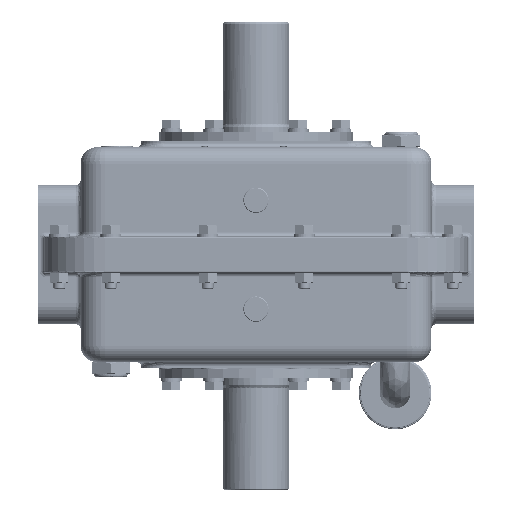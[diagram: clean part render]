
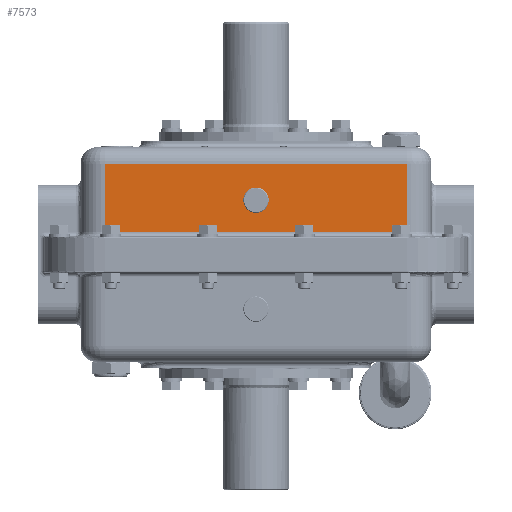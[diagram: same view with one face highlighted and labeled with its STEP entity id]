
A CAD part, front view. The second image highlights one B-rep face of the part: STEP entity #7573.
In plain terms, the highlighted planar face has unit normal (0, 1, 0).
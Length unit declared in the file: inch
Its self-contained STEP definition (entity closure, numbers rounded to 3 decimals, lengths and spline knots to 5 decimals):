
#1747 = CARTESIAN_POINT ( 'NONE',  ( 6.25, -9., 4.44 ) ) ;
#3896 = CARTESIAN_POINT ( 'NONE',  ( 6.25, -9., 0.93 ) ) ;
#4848 = DIRECTION ( 'NONE',  ( 0., 1., 0. ) ) ;
#7474 = CARTESIAN_POINT ( 'NONE',  ( -6.32702, -9., 3.76 ) ) ;
#7573 = ADVANCED_FACE ( 'NONE', ( #69914, #39751 ), #36492, .F. ) ;
#8452 = EDGE_CURVE ( 'NONE', #63413, #28172, #54751, .T. ) ;
#9829 = EDGE_LOOP ( 'NONE', ( #48699, #22793 ) ) ;
#9949 = LINE ( 'NONE', #57487, #72053 ) ;
#13416 = VERTEX_POINT ( 'NONE', #24501 ) ;
#15323 = DIRECTION ( 'NONE',  ( 0., -1., 0. ) ) ;
#15655 = CARTESIAN_POINT ( 'NONE',  ( 6.25, -9., 4.44 ) ) ;
#16031 = DIRECTION ( 'NONE',  ( 0., 1., 0. ) ) ;
#17824 = DIRECTION ( 'NONE',  ( 1., 0., 0. ) ) ;
#18330 = ORIENTED_EDGE ( 'NONE', *, *, #46042, .F. ) ;
#18706 = EDGE_CURVE ( 'NONE', #40168, #40672, #61424, .T. ) ;
#20928 = ORIENTED_EDGE ( 'NONE', *, *, #40909, .F. ) ;
#22793 = ORIENTED_EDGE ( 'NONE', *, *, #37690, .F. ) ;
#24501 = CARTESIAN_POINT ( 'NONE',  ( 6.25, -9., 0.93 ) ) ;
#27227 = CARTESIAN_POINT ( 'NONE',  ( -6.25, -9., 3.76 ) ) ;
#27686 = DIRECTION ( 'NONE',  ( 0., 0., 1. ) ) ;
#27901 = EDGE_CURVE ( 'NONE', #32504, #63413, #9949, .T. ) ;
#28172 = VERTEX_POINT ( 'NONE', #35063 ) ;
#28292 = CARTESIAN_POINT ( 'NONE',  ( -6.25, -9., 0.93 ) ) ;
#29522 = LINE ( 'NONE', #3896, #43676 ) ;
#31894 = DIRECTION ( 'NONE',  ( 0., 0., -1. ) ) ;
#32504 = VERTEX_POINT ( 'NONE', #28292 ) ;
#33997 = VECTOR ( 'NONE', #27686, 39.37008 ) ;
#34763 = ORIENTED_EDGE ( 'NONE', *, *, #27901, .T. ) ;
#35063 = CARTESIAN_POINT ( 'NONE',  ( 6.25, -9., 3.76 ) ) ;
#36492 = PLANE ( 'NONE',  #72793 ) ;
#37526 = CARTESIAN_POINT ( 'NONE',  ( 0., -9., 2.711 ) ) ;
#37690 = EDGE_CURVE ( 'NONE', #40672, #40168, #57872, .T. ) ;
#37824 = LINE ( 'NONE', #15655, #33997 ) ;
#39579 = DIRECTION ( 'NONE',  ( 0., 0., 1. ) ) ;
#39751 = FACE_OUTER_BOUND ( 'NONE', #52211, .T. ) ;
#40168 = VERTEX_POINT ( 'NONE', #37526 ) ;
#40672 = VERTEX_POINT ( 'NONE', #73041 ) ;
#40786 = CARTESIAN_POINT ( 'NONE',  ( 0., -9., 2.25 ) ) ;
#40909 = EDGE_CURVE ( 'NONE', #13416, #28172, #37824, .T. ) ;
#43676 = VECTOR ( 'NONE', #69845, 39.37008 ) ;
#46042 = EDGE_CURVE ( 'NONE', #32504, #13416, #29522, .T. ) ;
#46890 = DIRECTION ( 'NONE',  ( 0., 0., 1. ) ) ;
#48699 = ORIENTED_EDGE ( 'NONE', *, *, #18706, .F. ) ;
#52013 = CARTESIAN_POINT ( 'NONE',  ( 0., -9., 2.25 ) ) ;
#52211 = EDGE_LOOP ( 'NONE', ( #34763, #76234, #20928, #18330 ) ) ;
#54751 = LINE ( 'NONE', #7474, #68877 ) ;
#57487 = CARTESIAN_POINT ( 'NONE',  ( -6.25, -9., 4.44 ) ) ;
#57872 = CIRCLE ( 'NONE', #71760, 0.461 ) ;
#58052 = DIRECTION ( 'NONE',  ( 0., 0., 1. ) ) ;
#61424 = CIRCLE ( 'NONE', #71121, 0.461 ) ;
#63413 = VERTEX_POINT ( 'NONE', #27227 ) ;
#68877 = VECTOR ( 'NONE', #17824, 39.37008 ) ;
#69845 = DIRECTION ( 'NONE',  ( 1., 0., 0. ) ) ;
#69914 = FACE_BOUND ( 'NONE', #9829, .T. ) ;
#71121 = AXIS2_PLACEMENT_3D ( 'NONE', #40786, #4848, #46890 ) ;
#71760 = AXIS2_PLACEMENT_3D ( 'NONE', #52013, #16031, #58052 ) ;
#72053 = VECTOR ( 'NONE', #39579, 39.37008 ) ;
#72793 = AXIS2_PLACEMENT_3D ( 'NONE', #1747, #15323, #31894 ) ;
#73041 = CARTESIAN_POINT ( 'NONE',  ( 0., -9., 1.789 ) ) ;
#76234 = ORIENTED_EDGE ( 'NONE', *, *, #8452, .T. ) ;
